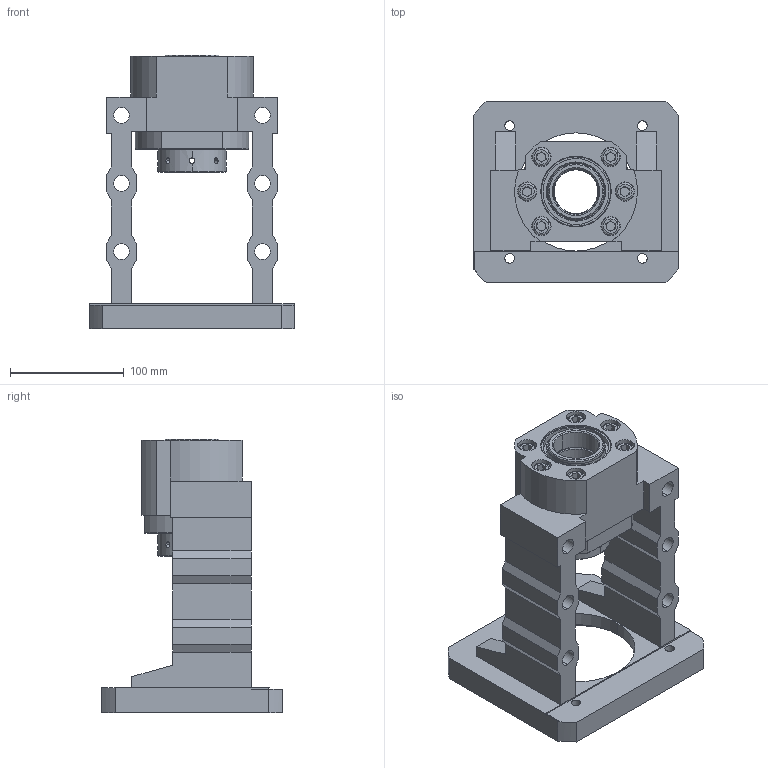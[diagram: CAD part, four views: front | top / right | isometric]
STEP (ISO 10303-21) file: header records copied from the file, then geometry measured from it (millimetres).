
FILE_DESCRIPTION (( 'STEP AP203' ), '1' );
FILE_NAME ('MBCK40-I²Õ¦X¥ó.STEP', '2024-09-05T08:31:54', ( '' ), ( '' ), 'SwSTEP 2.0', 'SolidWorks 2018', '' );
FILE_SCHEMA (( 'CONFIG_CONTROL_DESIGN' ));
Length unit declared in the file: millimetre
Products named in the file (1): MBCK40-I組合件
Bounding box: 180 x 160 x 241 mm (x, y, z)
Surface area: 231516.4 mm2 (no closed solid volume)
Topology: 0 solids, 22 shells, 334 faces, 960 edges, 635 vertices
Faces by surface type: plane 132, cylinder 112, cone 60, torus 18, bspline 12
Entity records: 30040 total; most frequent: CARTESIAN_POINT 21311, DIRECTION 1826, ORIENTED_EDGE 1672, EDGE_CURVE 952, AXIS2_PLACEMENT_3D 680, VERTEX_POINT 635, LINE 466, VECTOR 466
